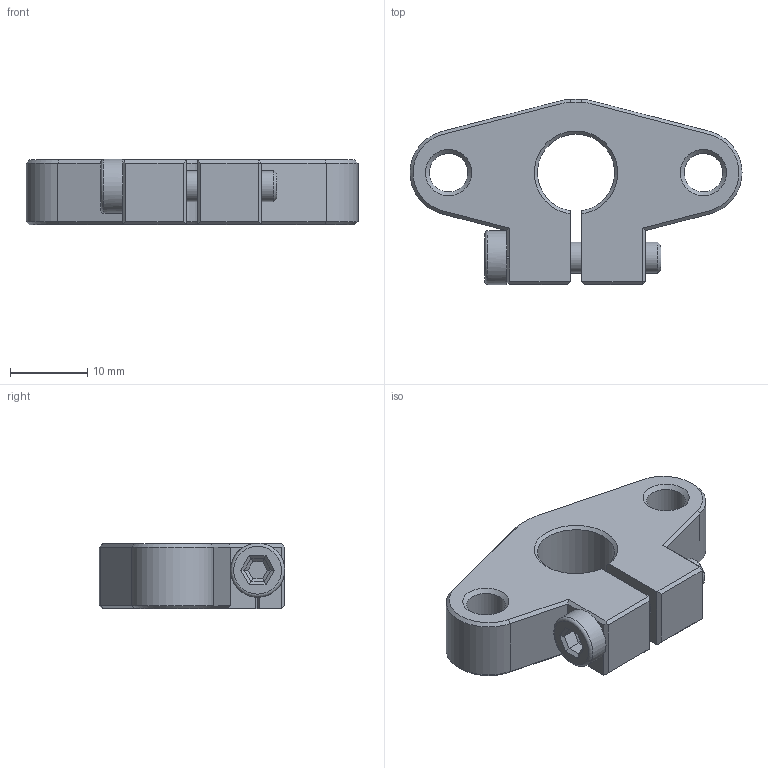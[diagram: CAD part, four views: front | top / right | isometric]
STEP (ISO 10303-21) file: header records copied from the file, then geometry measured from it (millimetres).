
FILE_DESCRIPTION(('FreeCAD Model'),'2;1');
FILE_NAME('Open CASCADE Shape Model','2021-05-04T13:02:09',('Author'),( ''),'Open CASCADE STEP processor 7.5','FreeCAD','Unknown');
FILE_SCHEMA(('AUTOMOTIVE_DESIGN { 1 0 10303 214 1 1 1 1 }'));
Length unit declared in the file: millimetre
Products named in the file (1): SHF10
Bounding box: 43 x 24 x 8.5 mm (x, y, z)
Volume: 4843.4 mm3; surface area: 2767.2 mm2
Topology: 1 solids, 1 shells, 94 faces, 221 edges, 131 vertices
Faces by surface type: plane 66, cone 15, cylinder 12, torus 1
Full cylindrical faces by diameter (mm): 4 x2, 5 x2, 7 x1
Entity records: 5553 total; most frequent: CARTESIAN_POINT 973, DIRECTION 882, LINE 547, VECTOR 547, ORIENTED_EDGE 442, PCURVE 442, DEFINITIONAL_REPRESENTATION 442, EDGE_CURVE 221
